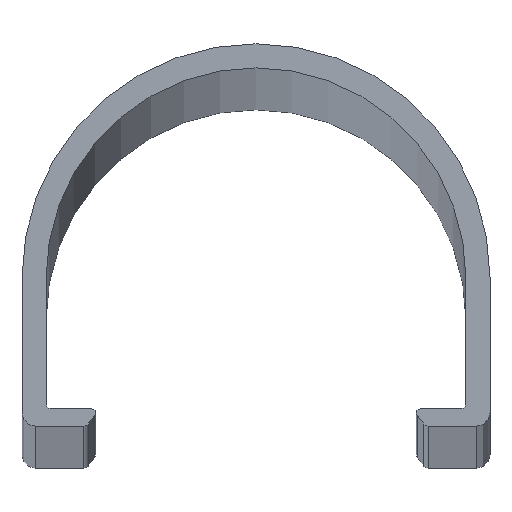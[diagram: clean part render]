
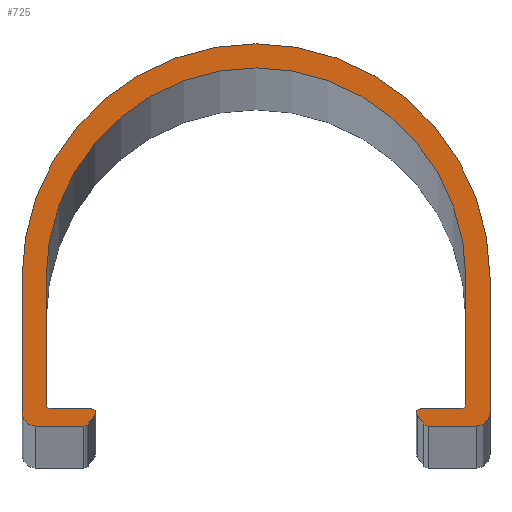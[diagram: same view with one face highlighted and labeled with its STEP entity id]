
A CAD part, top view. The second image highlights one B-rep face of the part: STEP entity #725.
In plain terms, the highlighted planar face has unit normal (0, 0, 1).
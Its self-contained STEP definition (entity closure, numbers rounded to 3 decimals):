
#82=CARTESIAN_POINT('',(-12.877,0.4,900.));
#83=DIRECTION('',(0.,0.,-1.));
#84=DIRECTION('',(0.799,-0.602,0.));
#85=AXIS2_PLACEMENT_3D('',#82,#83,#84);
#90=CARTESIAN_POINT('',(-16.5,1.,900.));
#91=DIRECTION('',(0.,0.,-1.));
#92=DIRECTION('',(0.,-1.,0.));
#93=AXIS2_PLACEMENT_3D('',#90,#91,#92);
#98=CARTESIAN_POINT('',(0.,11.1,900.));
#99=DIRECTION('',(0.,0.,-1.));
#100=DIRECTION('',(-1.,0.,0.));
#101=AXIS2_PLACEMENT_3D('',#98,#99,#100);
#106=CARTESIAN_POINT('',(16.5,1.,900.));
#107=DIRECTION('',(0.,0.,-1.));
#108=DIRECTION('',(1.,0.,0.));
#109=AXIS2_PLACEMENT_3D('',#106,#107,#108);
#114=CARTESIAN_POINT('',(12.877,0.4,900.));
#115=DIRECTION('',(0.,0.,-1.));
#116=DIRECTION('',(0.,-1.,0.));
#117=AXIS2_PLACEMENT_3D('',#114,#115,#116);
#122=DIRECTION('',(-0.602,0.799,0.));
#123=VECTOR('',#122,0.826);
#124=CARTESIAN_POINT('',(12.558,0.159,900.));
#125=LINE('',#124,#123);
#129=CARTESIAN_POINT('',(12.061,0.819,900.));
#130=CARTESIAN_POINT('',(12.051,0.832,900.));
#131=CARTESIAN_POINT('',(12.034,0.858,900.));
#132=CARTESIAN_POINT('',(12.014,0.904,900.));
#133=CARTESIAN_POINT('',(12.003,0.952,900.));
#134=CARTESIAN_POINT('',(12.,0.984,900.));
#135=CARTESIAN_POINT('',(12.,1.,900.));
#140=CARTESIAN_POINT('',(12.3,1.,900.));
#141=DIRECTION('',(0.,0.,-1.));
#142=DIRECTION('',(-1.,0.,0.));
#143=AXIS2_PLACEMENT_3D('',#140,#141,#142);
#148=CARTESIAN_POINT('',(15.3,1.7,900.));
#149=DIRECTION('',(0.,0.,1.));
#150=DIRECTION('',(0.,-1.,0.));
#151=AXIS2_PLACEMENT_3D('',#148,#149,#150);
#156=CARTESIAN_POINT('',(0.,11.1,900.));
#157=DIRECTION('',(0.,0.,1.));
#158=DIRECTION('',(1.,0.,0.));
#159=AXIS2_PLACEMENT_3D('',#156,#157,#158);
#164=CARTESIAN_POINT('',(-15.3,1.7,900.));
#165=DIRECTION('',(0.,0.,1.));
#166=DIRECTION('',(-1.,0.,0.));
#167=AXIS2_PLACEMENT_3D('',#164,#165,#166);
#172=CARTESIAN_POINT('',(-12.3,1.,900.));
#173=DIRECTION('',(0.,0.,-1.));
#174=DIRECTION('',(0.,1.,0.));
#175=AXIS2_PLACEMENT_3D('',#172,#173,#174);
#180=CARTESIAN_POINT('',(-12.,1.,900.));
#181=CARTESIAN_POINT('',(-12.,0.984,900.));
#182=CARTESIAN_POINT('',(-12.003,0.952,900.));
#183=CARTESIAN_POINT('',(-12.014,0.904,900.));
#184=CARTESIAN_POINT('',(-12.034,0.858,900.));
#185=CARTESIAN_POINT('',(-12.051,0.832,900.));
#186=CARTESIAN_POINT('',(-12.061,0.819,900.));
#191=DIRECTION('',(-0.602,-0.799,0.));
#192=VECTOR('',#191,0.826);
#193=CARTESIAN_POINT('',(-12.061,0.819,900.));
#194=LINE('',#193,#192);
#342=DIRECTION('',(-1.,0.,0.));
#343=VECTOR('',#342,3.623);
#344=CARTESIAN_POINT('',(-12.877,0.,900.));
#345=LINE('',#344,#343);
#377=DIRECTION('',(0.,1.,0.));
#378=VECTOR('',#377,10.1);
#379=CARTESIAN_POINT('',(-17.5,1.,900.));
#380=LINE('',#379,#378);
#405=DIRECTION('',(0.,1.,0.));
#406=VECTOR('',#405,10.1);
#407=CARTESIAN_POINT('',(17.5,1.,900.));
#408=LINE('',#407,#406);
#426=DIRECTION('',(1.,0.,0.));
#427=VECTOR('',#426,3.623);
#428=CARTESIAN_POINT('',(12.877,0.,900.));
#429=LINE('',#428,#427);
#482=DIRECTION('',(-1.,0.,0.));
#483=VECTOR('',#482,3.);
#484=CARTESIAN_POINT('',(15.3,1.3,900.));
#485=LINE('',#484,#483);
#503=DIRECTION('',(0.,-1.,0.));
#504=VECTOR('',#503,9.4);
#505=CARTESIAN_POINT('',(15.7,11.1,900.));
#506=LINE('',#505,#504);
#531=DIRECTION('',(0.,-1.,0.));
#532=VECTOR('',#531,9.4);
#533=CARTESIAN_POINT('',(-15.7,11.1,900.));
#534=LINE('',#533,#532);
#566=DIRECTION('',(1.,0.,0.));
#567=VECTOR('',#566,3.);
#568=CARTESIAN_POINT('',(-15.3,1.3,900.));
#569=LINE('',#568,#567);
#573=CARTESIAN_POINT('',(-12.3,1.3,900.));
#574=CARTESIAN_POINT('',(-12.,1.,900.));
#575=VERTEX_POINT('',#573);
#576=VERTEX_POINT('',#574);
#581=CARTESIAN_POINT('',(-12.558,0.159,900.));
#582=CARTESIAN_POINT('',(-12.877,0.,900.));
#583=VERTEX_POINT('',#581);
#584=VERTEX_POINT('',#582);
#585=CARTESIAN_POINT('',(-12.061,0.819,900.));
#586=VERTEX_POINT('',#585);
#587=CARTESIAN_POINT('',(-15.3,1.3,900.));
#588=VERTEX_POINT('',#587);
#589=CARTESIAN_POINT('',(-15.7,1.7,900.));
#590=VERTEX_POINT('',#589);
#591=CARTESIAN_POINT('',(-15.7,11.1,900.));
#592=VERTEX_POINT('',#591);
#593=CARTESIAN_POINT('',(15.7,11.1,900.));
#594=VERTEX_POINT('',#593);
#595=CARTESIAN_POINT('',(15.7,1.7,900.));
#596=VERTEX_POINT('',#595);
#597=CARTESIAN_POINT('',(15.3,1.3,900.));
#598=VERTEX_POINT('',#597);
#599=CARTESIAN_POINT('',(12.3,1.3,900.));
#600=VERTEX_POINT('',#599);
#601=CARTESIAN_POINT('',(12.,1.,900.));
#602=VERTEX_POINT('',#601);
#603=VERTEX_POINT('',#129);
#604=CARTESIAN_POINT('',(12.558,0.159,900.));
#605=VERTEX_POINT('',#604);
#606=CARTESIAN_POINT('',(12.877,0.,900.));
#607=VERTEX_POINT('',#606);
#608=CARTESIAN_POINT('',(16.5,0.,900.));
#609=VERTEX_POINT('',#608);
#610=CARTESIAN_POINT('',(17.5,1.,900.));
#611=VERTEX_POINT('',#610);
#612=CARTESIAN_POINT('',(17.5,11.1,900.));
#613=VERTEX_POINT('',#612);
#614=CARTESIAN_POINT('',(-17.5,11.1,900.));
#615=VERTEX_POINT('',#614);
#616=CARTESIAN_POINT('',(-17.5,1.,900.));
#617=VERTEX_POINT('',#616);
#618=CARTESIAN_POINT('',(-16.5,0.,900.));
#619=VERTEX_POINT('',#618);
#675=CARTESIAN_POINT('',(0.,14.3,900.));
#676=DIRECTION('',(0.,0.,1.));
#677=DIRECTION('',(1.,0.,0.));
#678=AXIS2_PLACEMENT_3D('',#675,#676,#677);
#679=PLANE('',#678);
#681=ORIENTED_EDGE('',*,*,#680,.T.);
#683=ORIENTED_EDGE('',*,*,#682,.T.);
#685=ORIENTED_EDGE('',*,*,#684,.T.);
#687=ORIENTED_EDGE('',*,*,#686,.T.);
#689=ORIENTED_EDGE('',*,*,#688,.T.);
#691=ORIENTED_EDGE('',*,*,#690,.F.);
#693=ORIENTED_EDGE('',*,*,#692,.T.);
#695=ORIENTED_EDGE('',*,*,#694,.F.);
#697=ORIENTED_EDGE('',*,*,#696,.T.);
#699=ORIENTED_EDGE('',*,*,#698,.T.);
#701=ORIENTED_EDGE('',*,*,#700,.T.);
#703=ORIENTED_EDGE('',*,*,#702,.T.);
#705=ORIENTED_EDGE('',*,*,#704,.F.);
#707=ORIENTED_EDGE('',*,*,#706,.T.);
#709=ORIENTED_EDGE('',*,*,#708,.F.);
#711=ORIENTED_EDGE('',*,*,#710,.T.);
#713=ORIENTED_EDGE('',*,*,#712,.T.);
#715=ORIENTED_EDGE('',*,*,#714,.T.);
#717=ORIENTED_EDGE('',*,*,#716,.T.);
#718=ORIENTED_EDGE('',*,*,#664,.T.);
#720=ORIENTED_EDGE('',*,*,#719,.T.);
#722=ORIENTED_EDGE('',*,*,#721,.T.);
#723=EDGE_LOOP('',(#681,#683,#685,#687,#689,#691,#693,#695,#697,#699,#701,#703,
#705,#707,#709,#711,#713,#715,#717,#718,#720,#722));
#724=FACE_OUTER_BOUND('',#723,.F.);
#86=CIRCLE('',#85,0.4);
#94=CIRCLE('',#93,1.);
#102=CIRCLE('',#101,17.5);
#110=CIRCLE('',#109,1.);
#118=CIRCLE('',#117,0.4);
#136=B_SPLINE_CURVE_WITH_KNOTS('',3,(#129,#130,#131,#132,#133,#134,#135),
.UNSPECIFIED.,.F.,.F.,(4,1,1,1,4),(0.,0.25,0.5,0.75,1.),
.UNSPECIFIED.);
#144=CIRCLE('',#143,0.3);
#152=CIRCLE('',#151,0.4);
#160=CIRCLE('',#159,15.7);
#168=CIRCLE('',#167,0.4);
#176=CIRCLE('',#175,0.3);
#187=B_SPLINE_CURVE_WITH_KNOTS('',3,(#180,#181,#182,#183,#184,#185,#186),
.UNSPECIFIED.,.F.,.F.,(4,1,1,1,4),(0.,0.25,0.5,0.75,1.),
.UNSPECIFIED.);
#664=EDGE_CURVE('',#575,#576,#176,.T.);
#680=EDGE_CURVE('',#583,#584,#86,.T.);
#682=EDGE_CURVE('',#584,#619,#345,.T.);
#684=EDGE_CURVE('',#619,#617,#94,.T.);
#686=EDGE_CURVE('',#617,#615,#380,.T.);
#688=EDGE_CURVE('',#615,#613,#102,.T.);
#690=EDGE_CURVE('',#611,#613,#408,.T.);
#692=EDGE_CURVE('',#611,#609,#110,.T.);
#694=EDGE_CURVE('',#607,#609,#429,.T.);
#696=EDGE_CURVE('',#607,#605,#118,.T.);
#698=EDGE_CURVE('',#605,#603,#125,.T.);
#700=EDGE_CURVE('',#603,#602,#136,.T.);
#702=EDGE_CURVE('',#602,#600,#144,.T.);
#704=EDGE_CURVE('',#598,#600,#485,.T.);
#706=EDGE_CURVE('',#598,#596,#152,.T.);
#708=EDGE_CURVE('',#594,#596,#506,.T.);
#710=EDGE_CURVE('',#594,#592,#160,.T.);
#712=EDGE_CURVE('',#592,#590,#534,.T.);
#714=EDGE_CURVE('',#590,#588,#168,.T.);
#716=EDGE_CURVE('',#588,#575,#569,.T.);
#719=EDGE_CURVE('',#576,#586,#187,.T.);
#721=EDGE_CURVE('',#586,#583,#194,.T.);
#725=ADVANCED_FACE('',(#724),#679,.T.);
